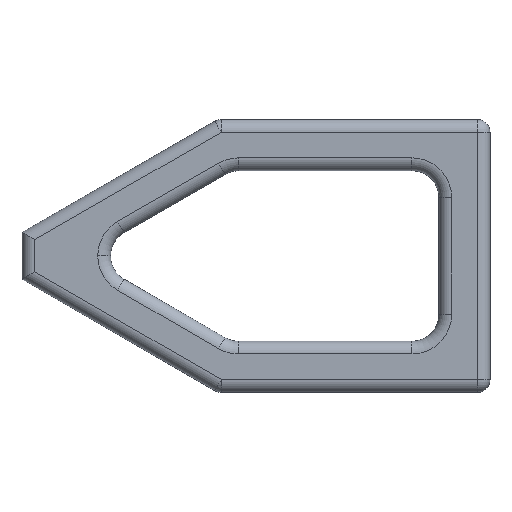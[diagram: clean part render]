
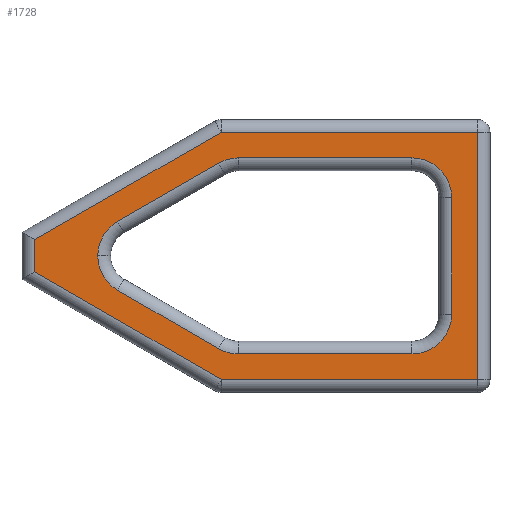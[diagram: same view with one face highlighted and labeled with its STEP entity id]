
A CAD part, top view. The second image highlights one B-rep face of the part: STEP entity #1728.
In plain terms, the highlighted planar face has unit normal (0, 0, 1).
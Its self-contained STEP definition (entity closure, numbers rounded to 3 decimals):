
#70 = VERTEX_POINT ( 'NONE', #493 ) ;
#77 = ORIENTED_EDGE ( 'NONE', *, *, #386, .T. ) ;
#89 = VERTEX_POINT ( 'NONE', #491 ) ;
#105 = DIRECTION ( 'NONE',  ( -1., 0., 0. ) ) ;
#131 = VECTOR ( 'NONE', #1381, 1000. ) ;
#140 = CARTESIAN_POINT ( 'NONE',  ( -18.35, 9., 23. ) ) ;
#151 = DIRECTION ( 'NONE',  ( -1., 0., 0. ) ) ;
#177 = AXIS2_PLACEMENT_3D ( 'NONE', #753, #229, #1755 ) ;
#184 = EDGE_CURVE ( 'NONE', #961, #1245, #954, .T. ) ;
#195 = VERTEX_POINT ( 'NONE', #576 ) ;
#196 = CARTESIAN_POINT ( 'NONE',  ( -9., 45.75, 23. ) ) ;
#200 = CARTESIAN_POINT ( 'NONE',  ( -59.092, 45.75, 23. ) ) ;
#206 = VERTEX_POINT ( 'NONE', #196 ) ;
#211 = LINE ( 'NONE', #1689, #512 ) ;
#229 = DIRECTION ( 'NONE',  ( 0., 0., -1. ) ) ;
#244 = EDGE_CURVE ( 'NONE', #1314, #206, #1159, .T. ) ;
#249 = DIRECTION ( 'NONE',  ( -1., 0., 0. ) ) ;
#273 = AXIS2_PLACEMENT_3D ( 'NONE', #624, #626, #612 ) ;
#274 = ORIENTED_EDGE ( 'NONE', *, *, #939, .T. ) ;
#298 = DIRECTION ( 'NONE',  ( 0., 0., -1. ) ) ;
#330 = LINE ( 'NONE', #663, #336 ) ;
#336 = VECTOR ( 'NONE', #105, 1000. ) ;
#386 = EDGE_CURVE ( 'NONE', #711, #195, #1418, .T. ) ;
#394 = DIRECTION ( 'NONE',  ( -1., 0., 0. ) ) ;
#401 = CARTESIAN_POINT ( 'NONE',  ( -63.76, 53.852, 23. ) ) ;
#445 = EDGE_CURVE ( 'NONE', #70, #647, #669, .T. ) ;
#466 = VERTEX_POINT ( 'NONE', #1759 ) ;
#475 = ORIENTED_EDGE ( 'NONE', *, *, #1206, .T. ) ;
#479 = FACE_OUTER_BOUND ( 'NONE', #789, .T. ) ;
#482 = FACE_BOUND ( 'NONE', #1687, .T. ) ;
#491 = CARTESIAN_POINT ( 'NONE',  ( -9., 18.35, 23. ) ) ;
#493 = CARTESIAN_POINT ( 'NONE',  ( -3., 3., 23. ) ) ;
#512 = VECTOR ( 'NONE', #1732, 1000. ) ;
#541 = LINE ( 'NONE', #1271, #1739 ) ;
#555 = ORIENTED_EDGE ( 'NONE', *, *, #794, .T. ) ;
#557 = ORIENTED_EDGE ( 'NONE', *, *, #1350, .T. ) ;
#562 = ORIENTED_EDGE ( 'NONE', *, *, #754, .T. ) ;
#576 = CARTESIAN_POINT ( 'NONE',  ( -92.19, 32.069, 23. ) ) ;
#607 = VERTEX_POINT ( 'NONE', #1550 ) ;
#612 = DIRECTION ( 'NONE',  ( -1., 0., 0. ) ) ;
#615 = EDGE_CURVE ( 'NONE', #1525, #466, #1371, .T. ) ;
#624 = CARTESIAN_POINT ( 'NONE',  ( -18.35, 45.75, 23. ) ) ;
#626 = DIRECTION ( 'NONE',  ( 0., 0., -1. ) ) ;
#633 = CARTESIAN_POINT ( 'NONE',  ( -87.507, 40.171, 23. ) ) ;
#647 = VERTEX_POINT ( 'NONE', #932 ) ;
#653 = EDGE_CURVE ( 'NONE', #195, #1709, #1793, .T. ) ;
#656 = DIRECTION ( 'NONE',  ( 0., 0., -1. ) ) ;
#663 = CARTESIAN_POINT ( 'NONE',  ( -59.115, 9., 23. ) ) ;
#669 = LINE ( 'NONE', #927, #1349 ) ;
#672 = DIRECTION ( 'NONE',  ( -0.866, -0.499, 0. ) ) ;
#692 = VERTEX_POINT ( 'NONE', #1702 ) ;
#698 = AXIS2_PLACEMENT_3D ( 'NONE', #1193, #1634, #1452 ) ;
#711 = VERTEX_POINT ( 'NONE', #1070 ) ;
#750 = EDGE_CURVE ( 'NONE', #1420, #692, #330, .T. ) ;
#753 = CARTESIAN_POINT ( 'NONE',  ( -59.115, 18.35, 23. ) ) ;
#754 = EDGE_CURVE ( 'NONE', #1749, #1525, #1421, .T. ) ;
#757 = AXIS2_PLACEMENT_3D ( 'NONE', #1258, #298, #151 ) ;
#789 = EDGE_LOOP ( 'NONE', ( #1260, #1369, #1462, #829, #562, #847 ) ) ;
#790 = EDGE_CURVE ( 'NONE', #647, #1749, #1288, .T. ) ;
#792 = VECTOR ( 'NONE', #1503, 1000. ) ;
#794 = EDGE_CURVE ( 'NONE', #1245, #1314, #211, .T. ) ;
#798 = CARTESIAN_POINT ( 'NONE',  ( -63.198, 61.1, 23. ) ) ;
#815 = LINE ( 'NONE', #1108, #131 ) ;
#817 = LINE ( 'NONE', #1178, #1472 ) ;
#829 = ORIENTED_EDGE ( 'NONE', *, *, #790, .T. ) ;
#847 = ORIENTED_EDGE ( 'NONE', *, *, #615, .T. ) ;
#854 = AXIS2_PLACEMENT_3D ( 'NONE', #1039, #656, #1561 ) ;
#868 = VECTOR ( 'NONE', #1161, 1000. ) ;
#871 = VECTOR ( 'NONE', #948, 1000. ) ;
#879 = CARTESIAN_POINT ( 'NONE',  ( -14.536, -25.138, 23. ) ) ;
#888 = EDGE_CURVE ( 'NONE', #692, #607, #893, .T. ) ;
#890 = LINE ( 'NONE', #879, #868 ) ;
#893 = CIRCLE ( 'NONE', #177, 9.35 ) ;
#903 = PLANE ( 'NONE',  #698 ) ;
#919 = CARTESIAN_POINT ( 'NONE',  ( -87.521, 23.975, 23. ) ) ;
#927 = CARTESIAN_POINT ( 'NONE',  ( -3., 0., 23. ) ) ;
#928 = CARTESIAN_POINT ( 'NONE',  ( -63.195, 3., 23. ) ) ;
#932 = CARTESIAN_POINT ( 'NONE',  ( -3., 61.1, 23. ) ) ;
#939 = EDGE_CURVE ( 'NONE', #89, #1420, #1693, .T. ) ;
#944 = AXIS2_PLACEMENT_3D ( 'NONE', #200, #1297, #394 ) ;
#948 = DIRECTION ( 'NONE',  ( -0.866, 0.501, 0. ) ) ;
#954 = CIRCLE ( 'NONE', #944, 9.35 ) ;
#955 = CARTESIAN_POINT ( 'NONE',  ( -107., 0., 23. ) ) ;
#961 = VERTEX_POINT ( 'NONE', #401 ) ;
#1039 = CARTESIAN_POINT ( 'NONE',  ( -82.84, 32.069, 23. ) ) ;
#1041 = CARTESIAN_POINT ( 'NONE',  ( -18.35, 55.1, 23. ) ) ;
#1056 = CARTESIAN_POINT ( 'NONE',  ( -42.176, 73.211, 23. ) ) ;
#1070 = CARTESIAN_POINT ( 'NONE',  ( -87.521, 23.975, 23. ) ) ;
#1078 = EDGE_CURVE ( 'NONE', #607, #711, #1313, .T. ) ;
#1081 = CARTESIAN_POINT ( 'NONE',  ( -18.35, 18.35, 23. ) ) ;
#1108 = CARTESIAN_POINT ( 'NONE',  ( -63.76, 53.852, 23. ) ) ;
#1109 = ORIENTED_EDGE ( 'NONE', *, *, #750, .T. ) ;
#1159 = CIRCLE ( 'NONE', #273, 9.35 ) ;
#1161 = DIRECTION ( 'NONE',  ( 0.866, -0.501, 0. ) ) ;
#1178 = CARTESIAN_POINT ( 'NONE',  ( 0., 3., 23. ) ) ;
#1193 = CARTESIAN_POINT ( 'NONE',  ( 0., 0., 23. ) ) ;
#1206 = EDGE_CURVE ( 'NONE', #206, #89, #541, .T. ) ;
#1245 = VERTEX_POINT ( 'NONE', #1259 ) ;
#1258 = CARTESIAN_POINT ( 'NONE',  ( -82.84, 32.069, 23. ) ) ;
#1259 = CARTESIAN_POINT ( 'NONE',  ( -59.092, 55.1, 23. ) ) ;
#1260 = ORIENTED_EDGE ( 'NONE', *, *, #1298, .T. ) ;
#1271 = CARTESIAN_POINT ( 'NONE',  ( -9., 18.35, 23. ) ) ;
#1288 = LINE ( 'NONE', #1655, #1497 ) ;
#1297 = DIRECTION ( 'NONE',  ( 0., 0., -1. ) ) ;
#1298 = EDGE_CURVE ( 'NONE', #466, #1336, #890, .T. ) ;
#1301 = DIRECTION ( 'NONE',  ( 0., -1., 0. ) ) ;
#1313 = LINE ( 'NONE', #919, #871 ) ;
#1314 = VERTEX_POINT ( 'NONE', #1041 ) ;
#1336 = VERTEX_POINT ( 'NONE', #928 ) ;
#1349 = VECTOR ( 'NONE', #1786, 1000. ) ;
#1350 = EDGE_CURVE ( 'NONE', #1709, #961, #815, .T. ) ;
#1369 = ORIENTED_EDGE ( 'NONE', *, *, #1672, .T. ) ;
#1371 = LINE ( 'NONE', #955, #792 ) ;
#1378 = CARTESIAN_POINT ( 'NONE',  ( -107., 35.866, 23. ) ) ;
#1381 = DIRECTION ( 'NONE',  ( 0.866, 0.499, 0. ) ) ;
#1418 = CIRCLE ( 'NONE', #757, 9.35 ) ;
#1420 = VERTEX_POINT ( 'NONE', #140 ) ;
#1421 = LINE ( 'NONE', #1056, #1671 ) ;
#1452 = DIRECTION ( 'NONE',  ( -1., 0., 0. ) ) ;
#1462 = ORIENTED_EDGE ( 'NONE', *, *, #445, .T. ) ;
#1470 = ORIENTED_EDGE ( 'NONE', *, *, #184, .T. ) ;
#1472 = VECTOR ( 'NONE', #1646, 1000. ) ;
#1497 = VECTOR ( 'NONE', #1642, 1000. ) ;
#1502 = ORIENTED_EDGE ( 'NONE', *, *, #888, .T. ) ;
#1503 = DIRECTION ( 'NONE',  ( 0., -1., 0. ) ) ;
#1525 = VERTEX_POINT ( 'NONE', #1378 ) ;
#1550 = CARTESIAN_POINT ( 'NONE',  ( -63.795, 10.256, 23. ) ) ;
#1561 = DIRECTION ( 'NONE',  ( -1., 0., 0. ) ) ;
#1576 = ORIENTED_EDGE ( 'NONE', *, *, #244, .T. ) ;
#1634 = DIRECTION ( 'NONE',  ( 0., 0., -1. ) ) ;
#1642 = DIRECTION ( 'NONE',  ( -1., 0., 0. ) ) ;
#1646 = DIRECTION ( 'NONE',  ( 1., 0., 0. ) ) ;
#1655 = CARTESIAN_POINT ( 'NONE',  ( 0., 61.1, 23. ) ) ;
#1657 = AXIS2_PLACEMENT_3D ( 'NONE', #1081, #1772, #249 ) ;
#1671 = VECTOR ( 'NONE', #672, 1000. ) ;
#1672 = EDGE_CURVE ( 'NONE', #1336, #70, #817, .T. ) ;
#1678 = ORIENTED_EDGE ( 'NONE', *, *, #1078, .T. ) ;
#1687 = EDGE_LOOP ( 'NONE', ( #1470, #555, #1576, #475, #274, #1109, #1502, #1678, #77, #1712, #557 ) ) ;
#1689 = CARTESIAN_POINT ( 'NONE',  ( -18.35, 55.1, 23. ) ) ;
#1693 = CIRCLE ( 'NONE', #1657, 9.35 ) ;
#1702 = CARTESIAN_POINT ( 'NONE',  ( -59.115, 9., 23. ) ) ;
#1709 = VERTEX_POINT ( 'NONE', #633 ) ;
#1712 = ORIENTED_EDGE ( 'NONE', *, *, #653, .T. ) ;
#1728 = ADVANCED_FACE ( 'NONE', ( #482, #479 ), #903, .F. ) ;
#1732 = DIRECTION ( 'NONE',  ( 1., 0., 0. ) ) ;
#1739 = VECTOR ( 'NONE', #1301, 1000. ) ;
#1749 = VERTEX_POINT ( 'NONE', #798 ) ;
#1755 = DIRECTION ( 'NONE',  ( -1., 0., 0. ) ) ;
#1759 = CARTESIAN_POINT ( 'NONE',  ( -107., 28.331, 23. ) ) ;
#1772 = DIRECTION ( 'NONE',  ( 0., 0., -1. ) ) ;
#1786 = DIRECTION ( 'NONE',  ( 0., 1., 0. ) ) ;
#1793 = CIRCLE ( 'NONE', #854, 9.35 ) ;
